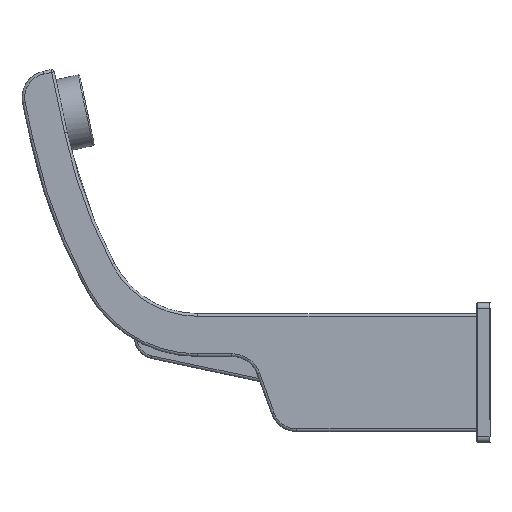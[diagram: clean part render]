
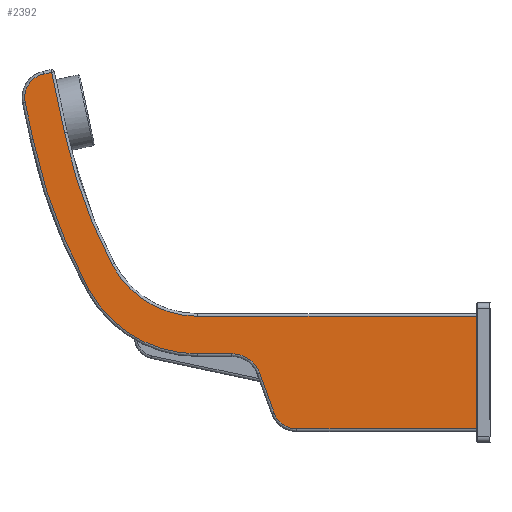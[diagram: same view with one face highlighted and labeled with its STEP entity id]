
A CAD part, left-side view. The second image highlights one B-rep face of the part: STEP entity #2392.
In plain terms, the highlighted planar face has unit normal (-1, 0, 0).
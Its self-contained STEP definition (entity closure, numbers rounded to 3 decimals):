
#122=LINE('',#14413,#238);
#160=LINE('',#16222,#276);
#161=LINE('',#16231,#277);
#163=LINE('',#16240,#279);
#164=LINE('',#16252,#280);
#165=LINE('',#16260,#281);
#166=LINE('',#16266,#282);
#168=LINE('',#16271,#284);
#238=VECTOR('',#3059,42.);
#276=VECTOR('',#3261,10.);
#277=VECTOR('',#3274,3.);
#279=VECTOR('',#3286,10.);
#280=VECTOR('',#3303,12.92);
#281=VECTOR('',#3314,15.793);
#282=VECTOR('',#3323,66.998);
#284=VECTOR('',#3329,104.);
#502=CIRCLE('',#2668,9.);
#505=CIRCLE('',#2673,203.);
#507=CIRCLE('',#2676,46.);
#510=CIRCLE('',#2681,11.);
#513=CIRCLE('',#2686,9.);
#516=CIRCLE('',#2692,36.);
#517=CIRCLE('',#2694,191.);
#607=PLANE('',#2704);
#736=FACE_OUTER_BOUND('',#907,.T.);
#907=EDGE_LOOP('',(#2052,#2053,#2054,#2055,#2056,#2057,#2058,#2059,#2060,
#2061,#2062,#2063,#2064,#2065,#2066));
#1075=VERTEX_POINT('',#14399);
#1081=VERTEX_POINT('',#14411);
#1140=VERTEX_POINT('',#16219);
#1141=VERTEX_POINT('',#16221);
#1143=VERTEX_POINT('',#16229);
#1144=VERTEX_POINT('',#16234);
#1145=VERTEX_POINT('',#16238);
#1146=VERTEX_POINT('',#16242);
#1147=VERTEX_POINT('',#16246);
#1148=VERTEX_POINT('',#16250);
#1149=VERTEX_POINT('',#16254);
#1150=VERTEX_POINT('',#16258);
#1151=VERTEX_POINT('',#16262);
#1152=VERTEX_POINT('',#16269);
#1153=VERTEX_POINT('',#16273);
#1341=EDGE_CURVE('',#1081,#1075,#122,.T.);
#1434=EDGE_CURVE('',#1140,#1141,#160,.T.);
#1439=EDGE_CURVE('',#1143,#1140,#161,.T.);
#1442=EDGE_CURVE('',#1144,#1143,#502,.T.);
#1444=EDGE_CURVE('',#1145,#1144,#163,.T.);
#1446=EDGE_CURVE('',#1146,#1145,#505,.T.);
#1448=EDGE_CURVE('',#1147,#1146,#507,.T.);
#1450=EDGE_CURVE('',#1148,#1147,#164,.T.);
#1452=EDGE_CURVE('',#1149,#1148,#510,.T.);
#1454=EDGE_CURVE('',#1150,#1149,#165,.T.);
#1456=EDGE_CURVE('',#1151,#1150,#513,.T.);
#1457=EDGE_CURVE('',#1075,#1151,#166,.T.);
#1460=EDGE_CURVE('',#1152,#1081,#168,.T.);
#1462=EDGE_CURVE('',#1153,#1152,#516,.T.);
#1463=EDGE_CURVE('',#1141,#1153,#517,.T.);
#2052=ORIENTED_EDGE('',*,*,#1457,.F.);
#2053=ORIENTED_EDGE('',*,*,#1341,.F.);
#2054=ORIENTED_EDGE('',*,*,#1460,.F.);
#2055=ORIENTED_EDGE('',*,*,#1462,.F.);
#2056=ORIENTED_EDGE('',*,*,#1463,.F.);
#2057=ORIENTED_EDGE('',*,*,#1434,.F.);
#2058=ORIENTED_EDGE('',*,*,#1439,.F.);
#2059=ORIENTED_EDGE('',*,*,#1442,.F.);
#2060=ORIENTED_EDGE('',*,*,#1444,.F.);
#2061=ORIENTED_EDGE('',*,*,#1446,.F.);
#2062=ORIENTED_EDGE('',*,*,#1448,.F.);
#2063=ORIENTED_EDGE('',*,*,#1450,.F.);
#2064=ORIENTED_EDGE('',*,*,#1452,.F.);
#2065=ORIENTED_EDGE('',*,*,#1454,.F.);
#2066=ORIENTED_EDGE('',*,*,#1456,.F.);
#2392=ADVANCED_FACE('',(#736),#607,.F.);
#2668=AXIS2_PLACEMENT_3D('',#16236,#3280,#3281);
#2673=AXIS2_PLACEMENT_3D('',#16244,#3291,#3292);
#2676=AXIS2_PLACEMENT_3D('',#16248,#3297,#3298);
#2681=AXIS2_PLACEMENT_3D('',#16256,#3308,#3309);
#2686=AXIS2_PLACEMENT_3D('',#16264,#3319,#3320);
#2692=AXIS2_PLACEMENT_3D('',#16275,#3334,#3335);
#2694=AXIS2_PLACEMENT_3D('',#16277,#3338,#3339);
#2704=AXIS2_PLACEMENT_3D('',#16292,#3361,#3362);
#3059=DIRECTION('',(0.,0.,-1.));
#3261=DIRECTION('',(0.,-0.208,-0.978));
#3274=DIRECTION('',(0.,-0.978,0.208));
#3280=DIRECTION('center_axis',(1.,0.,0.));
#3281=DIRECTION('ref_axis',(0.,0.978,-0.208));
#3286=DIRECTION('',(0.,0.208,0.978));
#3291=DIRECTION('center_axis',(1.,0.,0.));
#3292=DIRECTION('ref_axis',(0.,0.875,-0.485));
#3297=DIRECTION('center_axis',(1.,0.,0.));
#3298=DIRECTION('ref_axis',(0.,0.,
-1.));
#3303=DIRECTION('',(0.,1.,0.));
#3308=DIRECTION('center_axis',(-1.,0.,0.));
#3309=DIRECTION('ref_axis',(0.,0.,1.));
#3314=DIRECTION('',(0.,0.342,0.94));
#3319=DIRECTION('center_axis',(1.,0.,0.));
#3320=DIRECTION('ref_axis',(0.,0.,-1.));
#3323=DIRECTION('',(0.,1.,0.));
#3329=DIRECTION('',(0.,-1.,0.));
#3334=DIRECTION('center_axis',(-1.,0.,0.));
#3335=DIRECTION('ref_axis',(0.,0.,1.));
#3338=DIRECTION('center_axis',(-1.,0.,0.));
#3339=DIRECTION('ref_axis',(0.,0.,1.));
#3361=DIRECTION('center_axis',(1.,0.,0.));
#3362=DIRECTION('ref_axis',(0.,0.,-1.));
#14399=CARTESIAN_POINT('',(-22.,-58.,-21.));
#14411=CARTESIAN_POINT('',(-22.,-58.,21.));
#14413=CARTESIAN_POINT('',(-22.,-58.,21.));
#16219=CARTESIAN_POINT('',(-22.,100.409,111.932));
#16221=CARTESIAN_POINT('',(-22.,95.618,89.392));
#16222=CARTESIAN_POINT('',(-22.,100.409,111.932));
#16229=CARTESIAN_POINT('',(-22.,103.343,111.308));
#16231=CARTESIAN_POINT('',(-22.,103.343,111.308));
#16234=CARTESIAN_POINT('',(-22.,110.275,100.633));
#16236=CARTESIAN_POINT('Origin',(-22.,101.472,102.504));
#16238=CARTESIAN_POINT('',(-22.,107.356,86.897));
#16240=CARTESIAN_POINT('',(-22.,107.356,86.897));
#16242=CARTESIAN_POINT('',(-22.,86.348,30.702));
#16244=CARTESIAN_POINT('Origin',(-22.,-91.208,129.103));
#16246=CARTESIAN_POINT('',(-22.,46.114,7.));
#16248=CARTESIAN_POINT('Origin',(-22.,46.114,53.));
#16250=CARTESIAN_POINT('',(-22.,33.193,7.));
#16252=CARTESIAN_POINT('',(-22.,33.193,7.));
#16254=CARTESIAN_POINT('',(-22.,22.857,-0.238));
#16256=CARTESIAN_POINT('Origin',(-22.,33.193,-4.));
#16258=CARTESIAN_POINT('',(-22.,17.455,-15.078));
#16260=CARTESIAN_POINT('',(-22.,17.455,-15.078));
#16262=CARTESIAN_POINT('',(-22.,8.998,-21.));
#16264=CARTESIAN_POINT('Origin',(-22.,8.998,-12.));
#16266=CARTESIAN_POINT('',(-22.,-58.,-21.));
#16269=CARTESIAN_POINT('',(-22.,46.,21.));
#16271=CARTESIAN_POINT('',(-22.,46.,21.));
#16273=CARTESIAN_POINT('',(-22.,77.868,40.254));
#16275=CARTESIAN_POINT('Origin',(-22.,46.,57.));
#16277=CARTESIAN_POINT('Origin',(-22.,-91.208,129.103));
#16292=CARTESIAN_POINT('Origin',(-22.,-58.,45.865));
